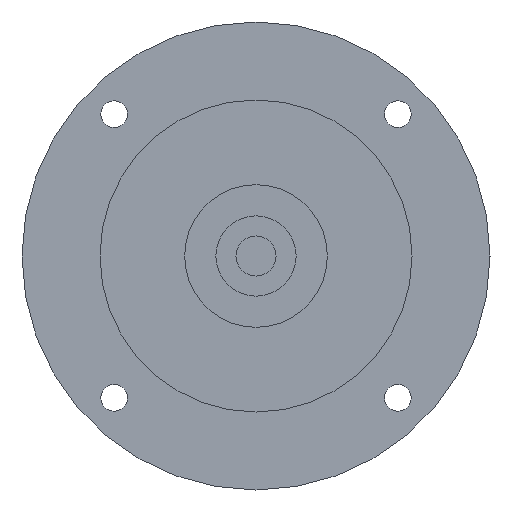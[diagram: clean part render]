
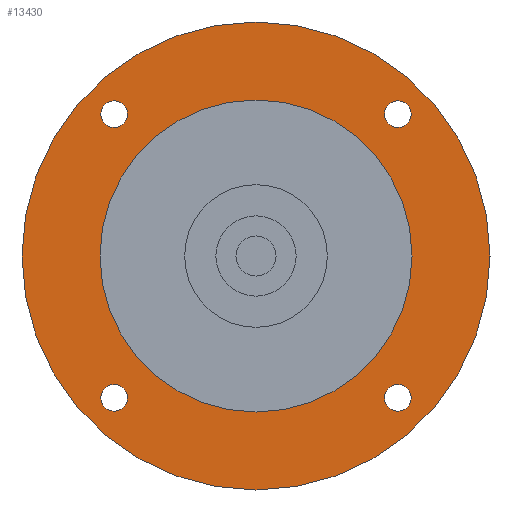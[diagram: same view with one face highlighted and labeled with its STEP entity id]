
A CAD part, left-side view. The second image highlights one B-rep face of the part: STEP entity #13430.
In plain terms, the highlighted planar face has unit normal (-1, 0, 0) as drawn and (0, 0, -1) by its records, which use the part's own axes.
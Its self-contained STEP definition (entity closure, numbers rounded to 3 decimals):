
#12270=CARTESIAN_POINT('',(-31.82,-28.82,-49.2));
#12280=VERTEX_POINT('',#12270);
#12310=CARTESIAN_POINT('',(-31.82,-31.82,-49.2));
#12320=DIRECTION('',(0.,0.,-1.));
#12330=DIRECTION('',(0.,-1.,0.));
#12340=AXIS2_PLACEMENT_3D('',#12310,#12320,#12330);
#12350=CIRCLE('',#12340,3.);
#12360=CARTESIAN_POINT('',(-31.82,-34.82,-49.2));
#12370=VERTEX_POINT('',#12360);
#12380=EDGE_CURVE('',#12370,#12280,#12350,.T.);
#12500=CARTESIAN_POINT('',(0.,0.,
-49.2));
#12510=DIRECTION('',(0.,0.,-1.));
#12520=DIRECTION('',(1.,0.,0.));
#12530=AXIS2_PLACEMENT_3D('',#12500,#12510,#12520);
#12540=PLANE('',#12530);
#12550=CARTESIAN_POINT('',(31.82,-31.82,-49.2));
#12560=DIRECTION('',(0.,0.,-1.));
#12570=DIRECTION('',(1.,0.,0.));
#12580=AXIS2_PLACEMENT_3D('',#12550,#12560,#12570);
#12590=CIRCLE('',#12580,3.);
#12600=CARTESIAN_POINT('',(34.82,-31.82,-49.2));
#12610=VERTEX_POINT('',#12600);
#12620=CARTESIAN_POINT('',(28.82,-31.82,-49.2));
#12630=VERTEX_POINT('',#12620);
#12640=EDGE_CURVE('',#12610,#12630,#12590,.T.);
#12650=ORIENTED_EDGE('',*,*,#12640,.F.);
#12660=EDGE_CURVE('',#12630,#12610,#12590,.T.);
#12670=ORIENTED_EDGE('',*,*,#12660,.F.);
#12680=EDGE_LOOP('',(#12670,#12650));
#12690=FACE_BOUND('',#12680,.T.);
#12700=CARTESIAN_POINT('',(0.,0.,
-49.2));
#12710=DIRECTION('',(0.,0.,-1.));
#12720=DIRECTION('',(0.,-1.,0.));
#12730=AXIS2_PLACEMENT_3D('',#12700,#12710,#12720);
#12740=CIRCLE('',#12730,52.5);
#12750=CARTESIAN_POINT('',(-52.5,0.,-49.2));
#12760=VERTEX_POINT('',#12750);
#12770=CARTESIAN_POINT('',(52.5,0.,-49.2));
#12780=VERTEX_POINT('',#12770);
#12790=EDGE_CURVE('',#12760,#12780,#12740,.T.);
#12800=ORIENTED_EDGE('',*,*,#12790,.T.);
#12810=CARTESIAN_POINT('',(0.,-52.5,-49.2));
#12820=VERTEX_POINT('',#12810);
#12830=EDGE_CURVE('',#12820,#12760,#12740,.T.);
#12840=ORIENTED_EDGE('',*,*,#12830,.T.);
#12850=EDGE_CURVE('',#12780,#12820,#12740,.T.);
#12860=ORIENTED_EDGE('',*,*,#12850,.T.);
#12870=EDGE_LOOP('',(#12860,#12840,#12800));
#12880=FACE_OUTER_BOUND('',#12870,.T.);
#12890=CARTESIAN_POINT('',(31.82,31.82,-49.2));
#12900=DIRECTION('',(0.,0.,-1.));
#12910=DIRECTION('',(0.,1.,0.));
#12920=AXIS2_PLACEMENT_3D('',#12890,#12900,#12910);
#12930=CIRCLE('',#12920,3.);
#12940=CARTESIAN_POINT('',(31.82,34.82,-49.2));
#12950=VERTEX_POINT('',#12940);
#12960=CARTESIAN_POINT('',(31.82,28.82,-49.2));
#12970=VERTEX_POINT('',#12960);
#12980=EDGE_CURVE('',#12950,#12970,#12930,.T.);
#12990=ORIENTED_EDGE('',*,*,#12980,.F.);
#13000=EDGE_CURVE('',#12970,#12950,#12930,.T.);
#13010=ORIENTED_EDGE('',*,*,#13000,.F.);
#13020=EDGE_LOOP('',(#13010,#12990));
#13030=FACE_BOUND('',#13020,.T.);
#13040=CARTESIAN_POINT('',(-31.82,31.82,-49.2));
#13050=DIRECTION('',(0.,0.,-1.));
#13060=DIRECTION('',(-1.,0.,0.));
#13070=AXIS2_PLACEMENT_3D('',#13040,#13050,#13060);
#13080=CIRCLE('',#13070,3.);
#13090=CARTESIAN_POINT('',(-34.82,31.82,-49.2));
#13100=VERTEX_POINT('',#13090);
#13110=CARTESIAN_POINT('',(-28.82,31.82,-49.2));
#13120=VERTEX_POINT('',#13110);
#13130=EDGE_CURVE('',#13100,#13120,#13080,.T.);
#13140=ORIENTED_EDGE('',*,*,#13130,.F.);
#13150=EDGE_CURVE('',#13120,#13100,#13080,.T.);
#13160=ORIENTED_EDGE('',*,*,#13150,.F.);
#13170=EDGE_LOOP('',(#13160,#13140));
#13180=FACE_BOUND('',#13170,.T.);
#13190=ORIENTED_EDGE('',*,*,#12380,.F.);
#13200=EDGE_CURVE('',#12280,#12370,#12350,.T.);
#13210=ORIENTED_EDGE('',*,*,#13200,.F.);
#13220=EDGE_LOOP('',(#13210,#13190));
#13230=FACE_BOUND('',#13220,.T.);
#13240=CARTESIAN_POINT('',(0.,0.,
-49.2));
#13250=DIRECTION('',(0.,0.,1.));
#13260=DIRECTION('',(0.,1.,0.));
#13270=AXIS2_PLACEMENT_3D('',#13240,#13250,#13260);
#13280=CIRCLE('',#13270,35.);
#13290=CARTESIAN_POINT('',(-35.,0.,-49.2));
#13300=VERTEX_POINT('',#13290);
#13310=CARTESIAN_POINT('',(35.,0.,-49.2));
#13320=VERTEX_POINT('',#13310);
#13330=EDGE_CURVE('',#13300,#13320,#13280,.T.);
#13340=ORIENTED_EDGE('',*,*,#13330,.T.);
#13350=CARTESIAN_POINT('',(0.,35.,-49.2));
#13360=VERTEX_POINT('',#13350);
#13370=EDGE_CURVE('',#13360,#13300,#13280,.T.);
#13380=ORIENTED_EDGE('',*,*,#13370,.T.);
#13390=EDGE_CURVE('',#13320,#13360,#13280,.T.);
#13400=ORIENTED_EDGE('',*,*,#13390,.T.);
#13410=EDGE_LOOP('',(#13400,#13380,#13340));
#13420=FACE_BOUND('',#13410,.T.);
#13430=ADVANCED_FACE('',(#12690,#12880,#13030,#13180,#13230,#13420),
#12540,.T.);
